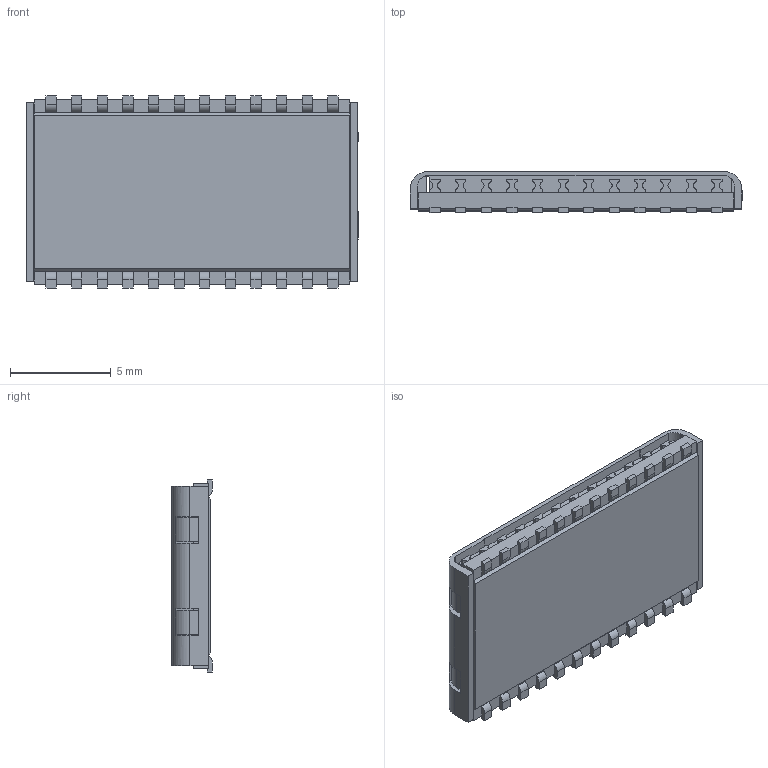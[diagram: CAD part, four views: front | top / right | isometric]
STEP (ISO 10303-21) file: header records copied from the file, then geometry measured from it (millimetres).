
FILE_DESCRIPTION (( 'STEP AP214' ), '1' );
FILE_NAME ('HX4110NL_3D.STEP', '2019-01-21T00:08:45', ( '' ), ( '' ), 'SwSTEP 2.0', 'SolidWorks 2015', '' );
FILE_SCHEMA (( 'AUTOMOTIVE_DESIGN' ));
Length unit declared in the file: millimetre
Products named in the file (1): HX4110NL_3D
Bounding box: 16.46 x 2.03 x 9.53 mm (x, y, z)
Volume: 267.8 mm3; surface area: 512.9 mm2
Topology: 1 solids, 1 shells, 471 faces, 1452 edges, 964 vertices
Faces by surface type: plane 343, cylinder 124, bspline 4
Entity records: 21428 total; most frequent: CARTESIAN_POINT 2995, ORIENTED_EDGE 2904, DIRECTION 2650, EDGE_CURVE 1452, VECTOR 1174, LINE 1174, VERTEX_POINT 964, AXIS2_PLACEMENT_3D 738
